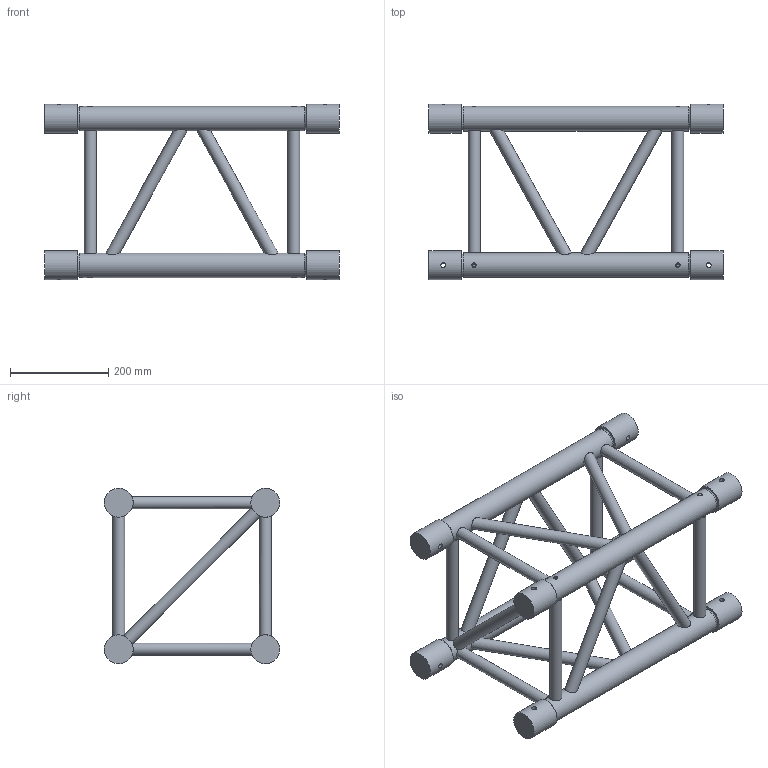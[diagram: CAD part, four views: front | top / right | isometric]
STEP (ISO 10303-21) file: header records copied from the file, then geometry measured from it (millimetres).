
FILE_DESCRIPTION(/* description */ (''),/* implementation_level */ '2;1');
FILE_NAME(/* name */ 'C:\Users\corina\Desktop\symbols (stephan)\111110058.stp',/* time_stamp */ '2015-10-21T09:14:04+03:00',/* author */ ('corina.carstoveanu'),/* organization */ (''),/* preprocessor_version */ 'ST-DEVELOPER v15.6',/* originating_system */ 'Autodesk Inventor 2015',/* authorisation */ '');
FILE_SCHEMA (('AUTOMOTIVE_DESIGN { 1 0 10303 214 3 1 1 }'));
Length unit declared in the file: millimetre
Products named in the file (1): 260027535
Bounding box: 600 x 357.8 x 357.8 mm (x, y, z)
Volume: 7534907.1 mm3; surface area: 832775.7 mm2
Topology: 1 solids, 1 shells, 246 faces, 608 edges, 374 vertices
Faces by surface type: plane 136, cylinder 70, cone 40
Full cylindrical faces by diameter (mm): 10 x8, 25 x18, 50 x4, 58.8 x8
Entity records: 9561 total; most frequent: CARTESIAN_POINT 3535, DIRECTION 1190, ORIENTED_EDGE 1120, EDGE_CURVE 536, AXIS2_PLACEMENT_3D 527, EDGE_LOOP 368, VERTEX_POINT 360, STYLED_ITEM 247
